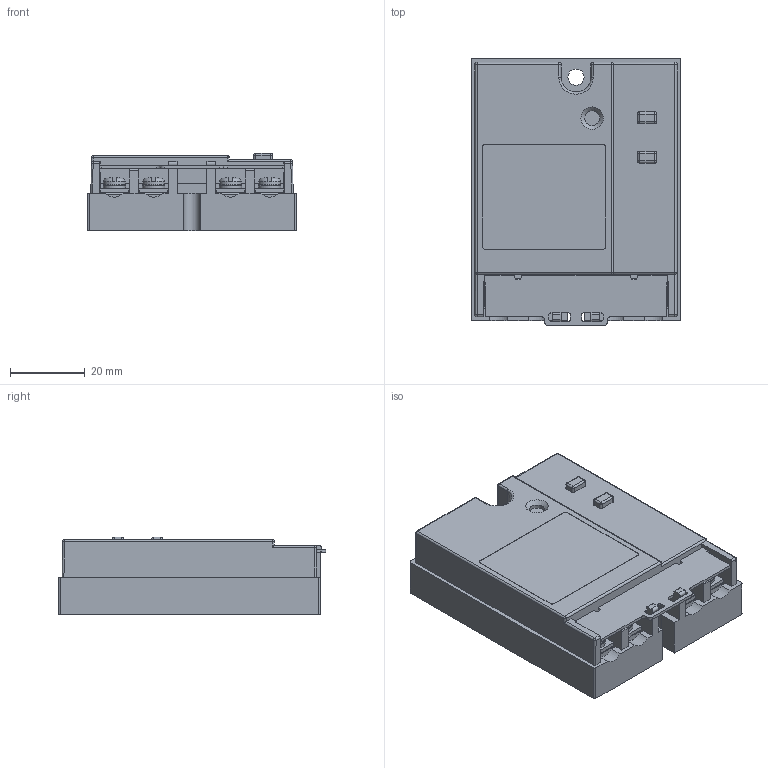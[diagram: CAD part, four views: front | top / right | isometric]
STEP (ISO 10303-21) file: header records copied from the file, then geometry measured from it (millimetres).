
FILE_DESCRIPTION(/* description */ (''),/* implementation_level */ '2;1');
FILE_NAME(/* name */ '09_1_kd-l2115r_141029.stp',/* time_stamp */ '2014-10-29T09:53:46+09:00',/* author */ (''),/* organization */ (''),/* preprocessor_version */ 'ST-DEVELOPER v14',/* originating_system */ 'SIEMENS PLM Software NX 8.0',/* authorisation */ '');
FILE_SCHEMA (('AP203_CONFIGURATION_CONTROLLED_3D_DESIGN_OF_MECHANICAL_PARTS_AND_ASSEMBLIES_MIM_LF { 1 0 10303 403 2 1 2}'));
Length unit declared in the file: millimetre
Products named in the file (1): as1808DC4DA56ija
Bounding box: 56 x 71.4 x 20.7 mm (x, y, z)
Volume: 69600.5 mm3; surface area: 15919.3 mm2
Topology: 1 solids, 1 shells, 388 faces, 1026 edges, 638 vertices
Faces by surface type: plane 254, cylinder 97, sphere 26, torus 9, cone 2
Full cylindrical faces by diameter (mm): 4 x1, 4.3 x1, 5.8 x4, 6 x4
Entity records: 11729 total; most frequent: CARTESIAN_POINT 2078, DIRECTION 1999, ORIENTED_EDGE 1960, EDGE_CURVE 980, LINE 707, VECTOR 707, AXIS2_PLACEMENT_3D 646, VERTEX_POINT 629
